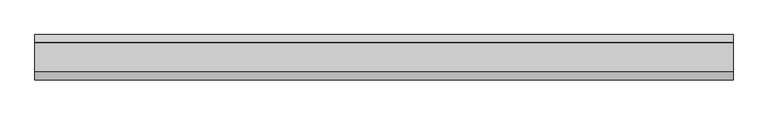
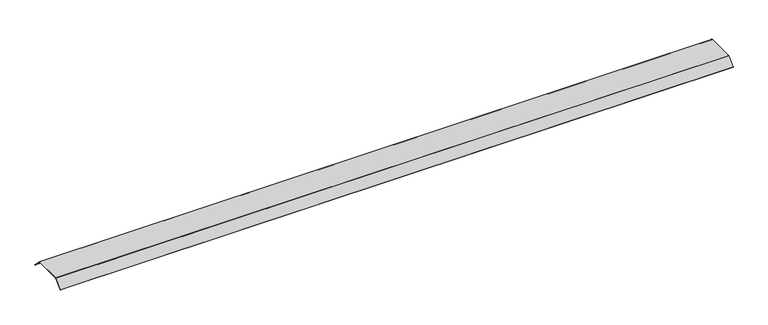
"""IFC4 building model written with IfcOpenShell, lengths in millimetres: proxy geometry, Electrical_Installation_Hager_Blank-Cover-800mm-Double-Sided-Height-70mm : Electrical_Installation_Hager_Blank-Cover-800mm-Double-Sided-Height-70mm."""

from ifc_helpers import new_model, si_unit, point, frame, frame_2d, origin, place, context, project, spatial, polyline, circle_curve, trimmed, segment, composite_curve, outline, extrude, source, transform, mapped, element, save


def electrical_fixtures_42846515(model_context):
    return source(origin(), model_context, "Body", "SweptSolid", [
        extrude(outline(composite_curve([segment(trimmed(circle_curve(frame_2d((125.0, 36.5)), 4.0), [point((125.0, 40.5))], [point((127.8284271, 39.3284271))], False, "CARTESIAN"), True, "CONTINUOUS"), segment(polyline([(127.8284271, 39.3284271), (195.78408, -28.6272257), (193.6627596, -30.7485461), (125.996177, 36.9180366)]), True, "CONTINUOUS"), segment(trimmed(circle_curve(frame_2d((124.591193, 35.5130527)), 1.9869473), [point((125.996177, 36.9180366))], [point((124.591193, 37.5))], True, "CARTESIAN"), True, "CONTINUOUS"), segment(polyline([(124.591193, 37.5), (-124.8229541, 37.5)]), True, "CONTINUOUS"), segment(trimmed(circle_curve(frame_2d((-124.8229541, 36.0725733)), 1.4274267), [point((-124.8229541, 37.5))], [point((-125.8322972, 37.0819164))], True, "CARTESIAN"), True, "CONTINUOUS"), segment(polyline([(-125.8322972, 37.0819164), (-193.6627596, -30.7485461), (-195.78408, -28.6272257), (-127.8206472, 39.336207)]), True, "CONTINUOUS"), segment(trimmed(circle_curve(frame_2d((-125.0110025, 36.5265623)), 3.9734377), [point((-127.8206472, 39.336207))], [point((-125.0110025, 40.5))], False, "CARTESIAN"), True, "CONTINUOUS"), segment(polyline([(-125.0110025, 40.5), (125.0, 40.5)]), True, "CONTINUOUS")], self_intersect=False)), frame((0.0, 0.0, 0.0), z_axis=(1.0, 0.0, 0.0), x_axis=(0.0, 1.0, 0.0)), (0.0, 0.0, 1.0), 6011.6956759),
    ])


if __name__ == "__main__":
    model = new_model("IFC4")
    model_context = context("Model", 3, world=origin())
    ifc_project = project(units=[si_unit("LENGTHUNIT", "METRE", prefix="MILLI")], contexts=[model_context])
    site = spatial("IfcSite", under=ifc_project)
    building = spatial("IfcBuilding", under=site)
    placement = place(None, origin())
    electrical_fixtures_shape = electrical_fixtures_42846515(model_context)
    element("IfcBuildingElementProxy", 1, Name="Electrical_Installation_Hager_Blank-Cover-800mm-Double-Sided-Height-70mm : Electrical_Installation_Hager_Blank-Cover-800mm-Double-Sided-Height-70mm", ObjectType="Electrical_Installation_Hager_Blank-Cover-800mm-Double-Sided-Height-70mm : Electrical_Installation_Hager_Blank-Cover-800mm-Double-Sided-Height-70mm", at=placement, inside=building, context=model_context, shape_type="MappedRepresentation", body=[
        mapped(electrical_fixtures_shape, transform((0.0, 0.0, 0.0), x_axis=(1.0, 0.0, 0.0), y_axis=(0.0, 1.0, 0.0), z_axis=(0.0, 0.0, 1.0))),
    ])
    save(model, "model.ifc")
